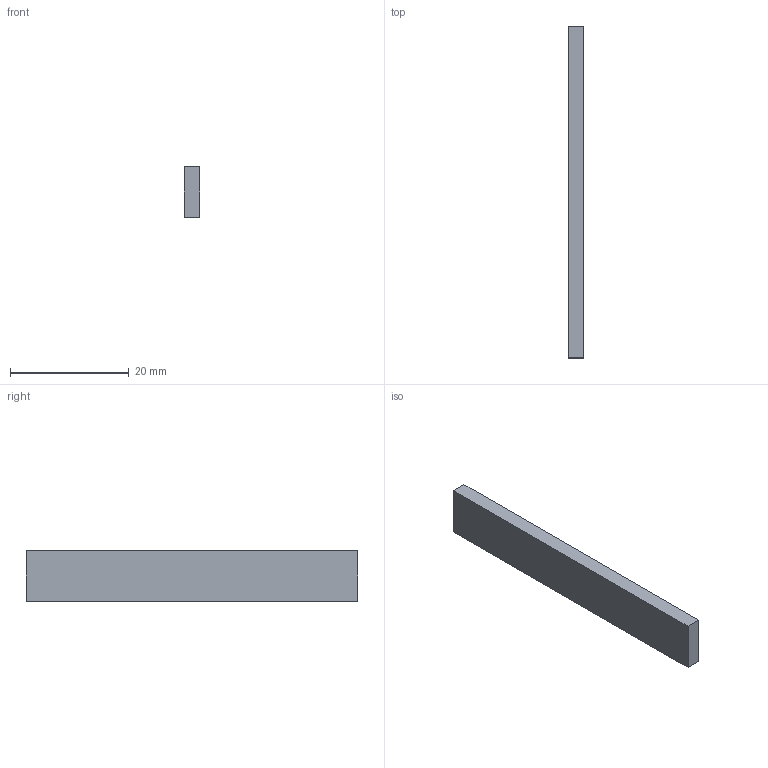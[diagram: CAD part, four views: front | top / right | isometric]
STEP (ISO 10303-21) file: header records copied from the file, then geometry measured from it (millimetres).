
FILE_DESCRIPTION(('Through-hole socket strip 1x22, 2.54 mm pitch -- body envelope 8.50 mm tall (2.54 mm socket strip, mating height (ICD-EEG-006 section 4))'),'2;1');
FILE_NAME('PinSocket_1x22_P2.54mm_Vertical','2026-09-08T00:00:00',('TI One Voice research programme'),(''),'EEG-CAR-01 step_write.py','','CC BY-SA 4.0');
FILE_SCHEMA(('AUTOMOTIVE_DESIGN { 1 0 10303 214 1 1 1 1 }'));
Length unit declared in the file: millimetre
Products named in the file (1): PinSocket_1x22_P2.54mm_Vertical
Bounding box: 2.54 x 55.88 x 8.5 mm (x, y, z)
Volume: 1206.4 mm3; surface area: 1277 mm2
Topology: 1 solids, 1 shells, 6 faces, 12 edges, 8 vertices
Faces by surface type: plane 6
Entity records: 67 total; most frequent: DIRECTION 14, CARTESIAN_POINT 9, AXIS2_PLACEMENT_3D 7, POLY_LOOP 6, FACE_OUTER_BOUND 6, PLANE 6, FACE_SURFACE 6, UNCERTAINTY_MEASURE_WITH_UNIT 1
